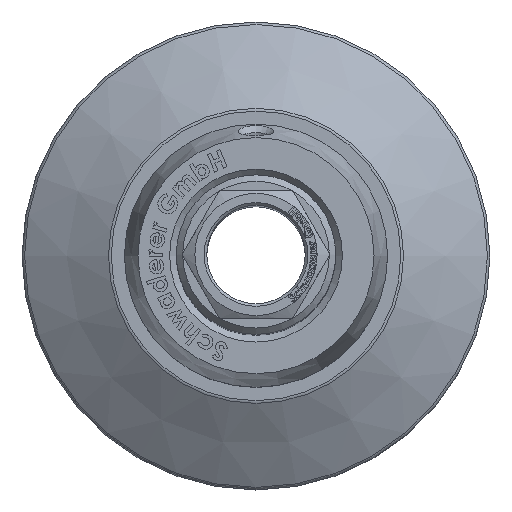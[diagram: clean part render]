
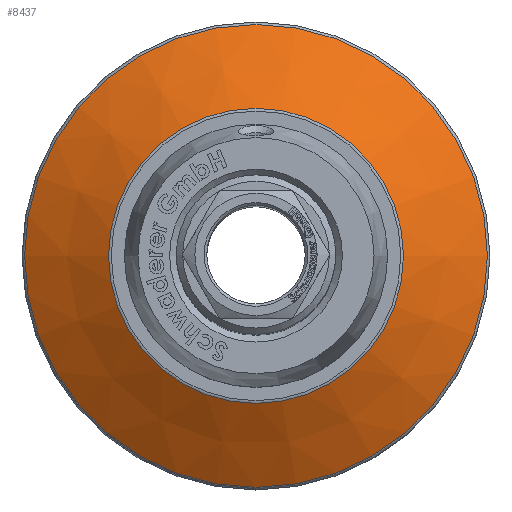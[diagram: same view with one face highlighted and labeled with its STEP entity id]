
A CAD part, top view. The second image highlights one B-rep face of the part: STEP entity #8437.
In plain terms, the highlighted conical face has half-angle 58.782 degrees and reference radius 35.75 mm.
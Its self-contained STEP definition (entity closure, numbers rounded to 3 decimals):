
#963=LINE('',#10952,#1744);
#1744=VECTOR('',#9363,35.75);
#2525=CONICAL_SURFACE('',#8944,35.75,1.026);
#2543=FACE_OUTER_BOUND('',#3022,.T.);
#3022=EDGE_LOOP('',(#5839,#5840,#5841,#5842,#5843,#5844));
#3552=CIRCLE('',#8941,27.739);
#3553=CIRCLE('',#8942,27.739);
#3555=CIRCLE('',#8945,43.518);
#3556=CIRCLE('',#8946,43.518);
#3666=VERTEX_POINT('',#10941);
#3667=VERTEX_POINT('',#10943);
#3668=VERTEX_POINT('',#10948);
#3669=VERTEX_POINT('',#10949);
#4535=EDGE_CURVE('',#3666,#3667,#3552,.T.);
#4536=EDGE_CURVE('',#3667,#3666,#3553,.T.);
#4538=EDGE_CURVE('',#3668,#3669,#3555,.T.);
#4539=EDGE_CURVE('',#3669,#3668,#3556,.T.);
#4540=EDGE_CURVE('',#3669,#3666,#963,.T.);
#5839=ORIENTED_EDGE('',*,*,#4538,.F.);
#5840=ORIENTED_EDGE('',*,*,#4539,.F.);
#5841=ORIENTED_EDGE('',*,*,#4540,.T.);
#5842=ORIENTED_EDGE('',*,*,#4536,.F.);
#5843=ORIENTED_EDGE('',*,*,#4535,.F.);
#5844=ORIENTED_EDGE('',*,*,#4540,.F.);
#8437=ADVANCED_FACE('',(#2543),#2525,.T.);
#8941=AXIS2_PLACEMENT_3D('',#10944,#9351,#9352);
#8942=AXIS2_PLACEMENT_3D('',#10945,#9353,#9354);
#8944=AXIS2_PLACEMENT_3D('',#10947,#9357,#9358);
#8945=AXIS2_PLACEMENT_3D('',#10950,#9359,#9360);
#8946=AXIS2_PLACEMENT_3D('',#10951,#9361,#9362);
#9351=DIRECTION('center_axis',(0.,0.,
1.));
#9352=DIRECTION('ref_axis',(-1.,0.,0.));
#9353=DIRECTION('center_axis',(0.,0.,
1.));
#9354=DIRECTION('ref_axis',(-1.,0.,0.));
#9357=DIRECTION('center_axis',(0.,0.,-1.));
#9358=DIRECTION('ref_axis',(1.,0.,0.));
#9359=DIRECTION('center_axis',(0.,0.,
-1.));
#9360=DIRECTION('ref_axis',(-1.,0.,0.));
#9361=DIRECTION('center_axis',(0.,0.,
-1.));
#9362=DIRECTION('ref_axis',(-1.,0.,0.));
#9363=DIRECTION('',(0.855,0.,0.518));
#10941=CARTESIAN_POINT('',(-27.739,0.,-24.012));
#10943=CARTESIAN_POINT('',(27.739,0.,-24.012));
#10944=CARTESIAN_POINT('Origin',(0.,0.,
-24.012));
#10945=CARTESIAN_POINT('Origin',(0.,0.,
-24.012));
#10947=CARTESIAN_POINT('Origin',(0.,0.,-28.867));
#10948=CARTESIAN_POINT('',(43.518,0.,-33.575));
#10949=CARTESIAN_POINT('',(-43.518,0.,-33.575));
#10950=CARTESIAN_POINT('Origin',(0.,0.,
-33.575));
#10951=CARTESIAN_POINT('Origin',(0.,0.,
-33.575));
#10952=CARTESIAN_POINT('',(-35.75,0.,-28.867));
